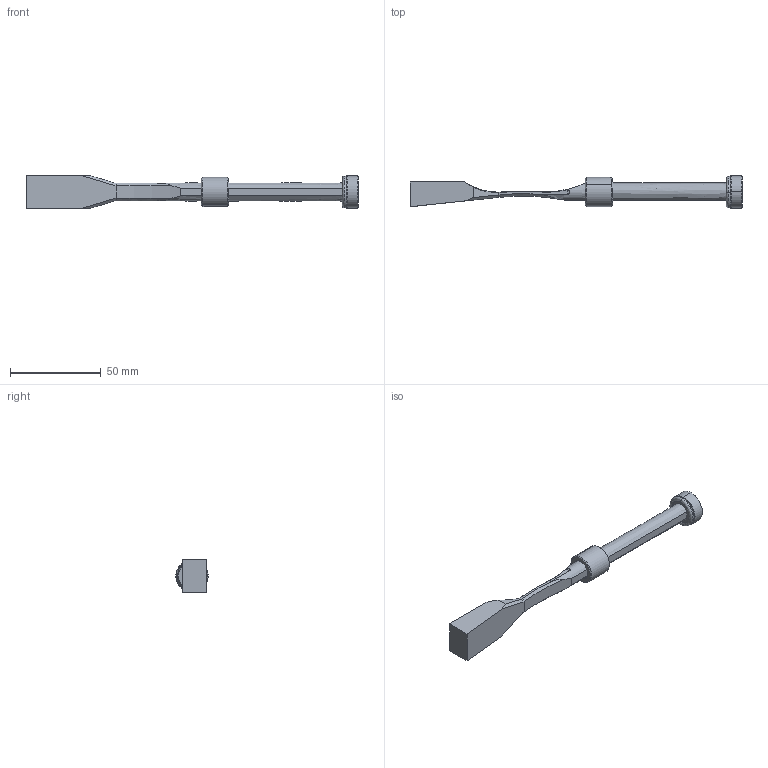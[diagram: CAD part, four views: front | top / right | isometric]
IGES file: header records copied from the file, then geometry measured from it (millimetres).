
Start section: START RECORD GO HERE.
Global section: file name: pw101830_injection.igs; native system: DASSAULT SYSTEMES CATIA V5 R20 - www.3ds.com; preprocessor: CATIA Version 5 Release 20 ; author: Utente; organization: NB04-ASUS; date: 20201108.141123; units: millimetre
Bounding box: 183 x 17.8 x 18.2 mm (x, y, z)
Surface area: 10655.3 mm2 (no closed solid volume)
Topology: 0 solids, 0 shells, 108 faces, 487 edges, 483 vertices
Faces by surface type: revolution 70, plane 36, bspline 2
